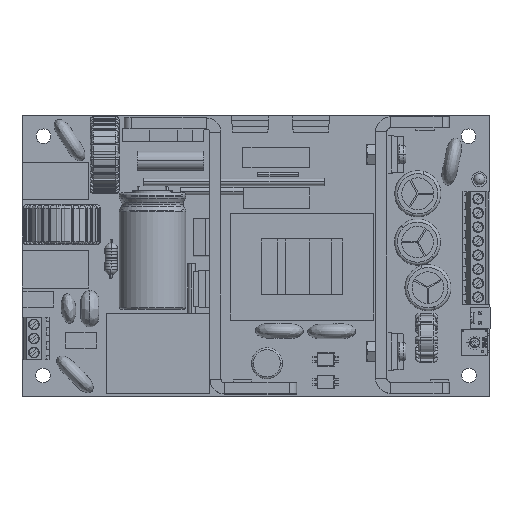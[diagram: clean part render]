
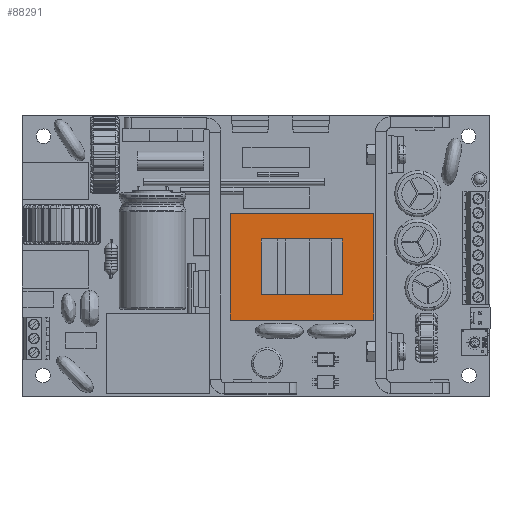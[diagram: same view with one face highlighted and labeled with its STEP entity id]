
A CAD part, top view. The second image highlights one B-rep face of the part: STEP entity #88291.
In plain terms, the highlighted planar face has unit normal (0, 0, 1).
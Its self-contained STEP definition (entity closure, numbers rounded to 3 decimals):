
#71874 = CARTESIAN_POINT ( 'NONE',  ( 95.465, 49.696, 22.6 ) ) ;
#72030 = DIRECTION ( 'NONE',  ( 0., 1., 0. ) ) ;
#72032 = VECTOR ( 'NONE', #72030, 1000. ) ;
#72033 = CARTESIAN_POINT ( 'NONE',  ( 95.465, 49.696, 22.6 ) ) ;
#72034 = LINE ( 'NONE', #72033, #72032 ) ;
#72154 = FACE_OUTER_BOUND ( 'NONE', #88480, .T. ) ;
#72155 = FACE_BOUND ( 'NONE', #88296, .T. ) ;
#72164 = CARTESIAN_POINT ( 'NONE',  ( 56.465, 49.696, 22.6 ) ) ;
#72165 = DIRECTION ( 'NONE',  ( 0., -1., 0. ) ) ;
#72166 = VECTOR ( 'NONE', #72165, 1000. ) ;
#72167 = CARTESIAN_POINT ( 'NONE',  ( 56.465, 49.696, 22.6 ) ) ;
#72168 = LINE ( 'NONE', #72167, #72166 ) ;
#72174 = CARTESIAN_POINT ( 'NONE',  ( 56.465, 20.696, 22.6 ) ) ;
#72188 = DIRECTION ( 'NONE',  ( 1., 0., 0. ) ) ;
#72189 = DIRECTION ( 'NONE',  ( 0., 0., 1. ) ) ;
#72190 = CARTESIAN_POINT ( 'NONE',  ( 56.465, 20.696, 22.6 ) ) ;
#72191 = AXIS2_PLACEMENT_3D ( 'NONE', #72190, #72189, #72188 ) ;
#72192 = PLANE ( 'NONE',  #72191 ) ;
#72222 = CARTESIAN_POINT ( 'NONE',  ( 64.965, 42.696, 22.6 ) ) ;
#72224 = DIRECTION ( 'NONE',  ( 0., -1., 0. ) ) ;
#72225 = VECTOR ( 'NONE', #72224, 1000. ) ;
#72226 = CARTESIAN_POINT ( 'NONE',  ( 64.965, 42.696, 22.6 ) ) ;
#72227 = LINE ( 'NONE', #72226, #72225 ) ;
#72250 = CARTESIAN_POINT ( 'NONE',  ( 95.465, 20.696, 22.6 ) ) ;
#72253 = CARTESIAN_POINT ( 'NONE',  ( 64.965, 27.696, 22.6 ) ) ;
#72284 = CARTESIAN_POINT ( 'NONE',  ( 86.965, 42.696, 22.6 ) ) ;
#72295 = DIRECTION ( 'NONE',  ( 1., 0., 0. ) ) ;
#72296 = VECTOR ( 'NONE', #72295, 1000. ) ;
#72297 = CARTESIAN_POINT ( 'NONE',  ( 56.465, 20.696, 22.6 ) ) ;
#72298 = LINE ( 'NONE', #72297, #72296 ) ;
#72446 = DIRECTION ( 'NONE',  ( -1., 0., 0. ) ) ;
#72447 = VECTOR ( 'NONE', #72446, 1000. ) ;
#72448 = CARTESIAN_POINT ( 'NONE',  ( 56.465, 49.696, 22.6 ) ) ;
#72449 = LINE ( 'NONE', #72448, #72447 ) ;
#72586 = VECTOR ( 'NONE', #72651, 1000. ) ;
#72588 = CARTESIAN_POINT ( 'NONE',  ( 64.965, 42.696, 22.6 ) ) ;
#72589 = LINE ( 'NONE', #72588, #72586 ) ;
#72651 = DIRECTION ( 'NONE',  ( -1., 0., 0. ) ) ;
#72714 = CARTESIAN_POINT ( 'NONE',  ( 86.965, 27.696, 22.6 ) ) ;
#72715 = DIRECTION ( 'NONE',  ( 0., 1., 0. ) ) ;
#72716 = VECTOR ( 'NONE', #72715, 1000. ) ;
#72717 = CARTESIAN_POINT ( 'NONE',  ( 86.965, 42.696, 22.6 ) ) ;
#72718 = LINE ( 'NONE', #72717, #72716 ) ;
#72748 = DIRECTION ( 'NONE',  ( 1., 0., 0. ) ) ;
#72749 = VECTOR ( 'NONE', #72748, 1000. ) ;
#72750 = CARTESIAN_POINT ( 'NONE',  ( 64.965, 27.696, 22.6 ) ) ;
#72751 = LINE ( 'NONE', #72750, #72749 ) ;
#88234 = VERTEX_POINT ( 'NONE', #71874 ) ;
#88243 = EDGE_CURVE ( 'NONE', #88325, #88234, #72034, .T. ) ;
#88271 = VERTEX_POINT ( 'NONE', #72174 ) ;
#88279 = EDGE_CURVE ( 'NONE', #88281, #88271, #72168, .T. ) ;
#88281 = VERTEX_POINT ( 'NONE', #72164 ) ;
#88291 = ADVANCED_FACE ( 'NONE', ( #72155, #72154 ), #72192, .T. ) ;
#88296 = EDGE_LOOP ( 'NONE', ( #88301, #88447, #88460, #88475 ) ) ;
#88301 = ORIENTED_EDGE ( 'NONE', *, *, #88304, .F. ) ;
#88304 = EDGE_CURVE ( 'NONE', #88306, #88309, #72227, .T. ) ;
#88306 = VERTEX_POINT ( 'NONE', #72222 ) ;
#88309 = VERTEX_POINT ( 'NONE', #72253 ) ;
#88317 = VERTEX_POINT ( 'NONE', #72284 ) ;
#88325 = VERTEX_POINT ( 'NONE', #72250 ) ;
#88336 = EDGE_CURVE ( 'NONE', #88271, #88325, #72298, .T. ) ;
#88360 = ORIENTED_EDGE ( 'NONE', *, *, #88336, .T. ) ;
#88367 = ORIENTED_EDGE ( 'NONE', *, *, #88243, .T. ) ;
#88372 = ORIENTED_EDGE ( 'NONE', *, *, #88412, .T. ) ;
#88412 = EDGE_CURVE ( 'NONE', #88234, #88281, #72449, .T. ) ;
#88447 = ORIENTED_EDGE ( 'NONE', *, *, #88451, .F. ) ;
#88451 = EDGE_CURVE ( 'NONE', #88317, #88306, #72589, .T. ) ;
#88460 = ORIENTED_EDGE ( 'NONE', *, *, #88468, .F. ) ;
#88468 = EDGE_CURVE ( 'NONE', #88470, #88317, #72718, .T. ) ;
#88470 = VERTEX_POINT ( 'NONE', #72714 ) ;
#88475 = ORIENTED_EDGE ( 'NONE', *, *, #88477, .F. ) ;
#88477 = EDGE_CURVE ( 'NONE', #88309, #88470, #72751, .T. ) ;
#88480 = EDGE_LOOP ( 'NONE', ( #88488, #88360, #88367, #88372 ) ) ;
#88488 = ORIENTED_EDGE ( 'NONE', *, *, #88279, .T. ) ;
